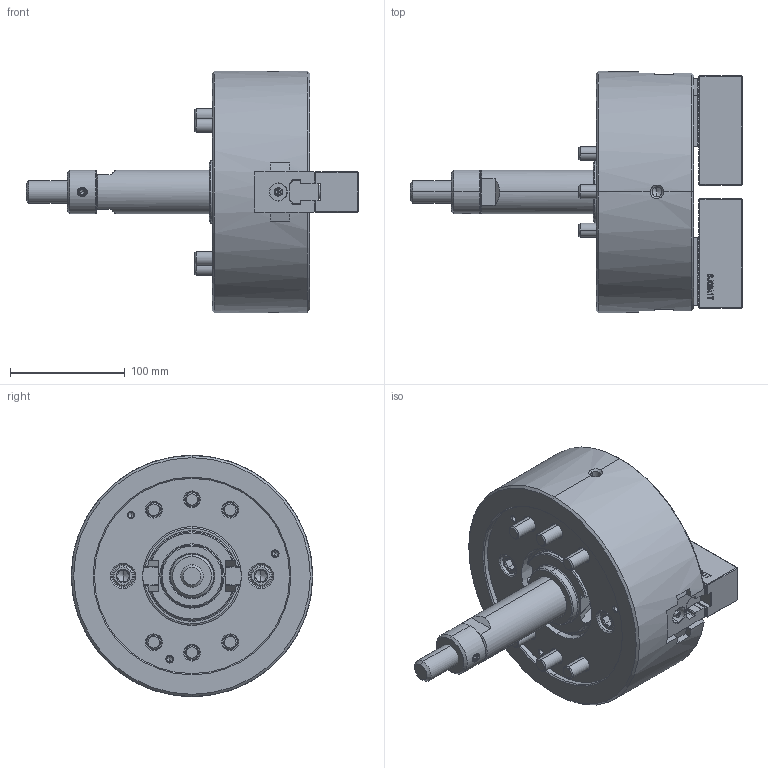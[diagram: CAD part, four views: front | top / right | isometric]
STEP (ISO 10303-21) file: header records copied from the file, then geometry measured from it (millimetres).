
FILE_DESCRIPTION (( 'STEP AP214' ), '1' );
FILE_NAME ('DT1_NLT08_OUTSIDE_VIEW_OC.STEP', '2026-03-23T04:21:02', ( '' ), ( '' ), 'SwSTEP 2.0', 'SolidWorks 2022', '' );
FILE_SCHEMA (( 'AUTOMOTIVE_DESIGN' ));
Length unit declared in the file: millimetre
Products named in the file (11): Copy of 61P310518^DT1_NLT08; DT1_NLT08_COVER^DT1_NLT08; DT1_NLT08_DN^DT1_NLT08; DT1_NLT08_DRAWSCREW^DT1_NLT08; DT1_NLT08_BASE^DT1_NLT08; DT1_NLT08_M12x35^DT1_NLT08; DT1_NLT08_M5x12^DT1_NLT08; DT1_NLT08_M12x85^DT1_NLT08; DT1_NLT08_OUTSIDE_VIEW_OC; DT1_NLT08_SOFTJAW^DT1_NLT08; DT1_NLT08_TNUT^DT1_NLT08
Assembly tree (23 placements, depth 2):
  DT1_NLT08_OUTSIDE_VIEW_OC
    DT1_NLT08_SOFTJAW^DT1_NLT08  x2
    DT1_NLT08_TNUT^DT1_NLT08  x2
    DT1_NLT08_COVER^DT1_NLT08
    DT1_NLT08_DRAWSCREW^DT1_NLT08
    Copy of 61P310518^DT1_NLT08
    DT1_NLT08_DN^DT1_NLT08
    DT1_NLT08_BASE^DT1_NLT08
    DT1_NLT08_M12x85^DT1_NLT08  x6
    DT1_NLT08_M12x35^DT1_NLT08  x4
    DT1_NLT08_M5x12^DT1_NLT08  x4
Bounding box: 289 x 210 x 210 mm (x, y, z)
Volume: 3076562.6 mm3; surface area: 348245.7 mm2
Topology: 23 solids, 31 shells, 3825 faces, 10689 edges, 6979 vertices
Faces by surface type: plane 2192, cylinder 933, cone 376, bspline 269, torus 51, sphere 4
Entity records: 96382 total; most frequent: CARTESIAN_POINT 29336, ORIENTED_EDGE 15258, DIRECTION 11805, EDGE_CURVE 7629, LINE 5167, VECTOR 5167, VERTEX_POINT 4998, AXIS2_PLACEMENT_3D 3319
